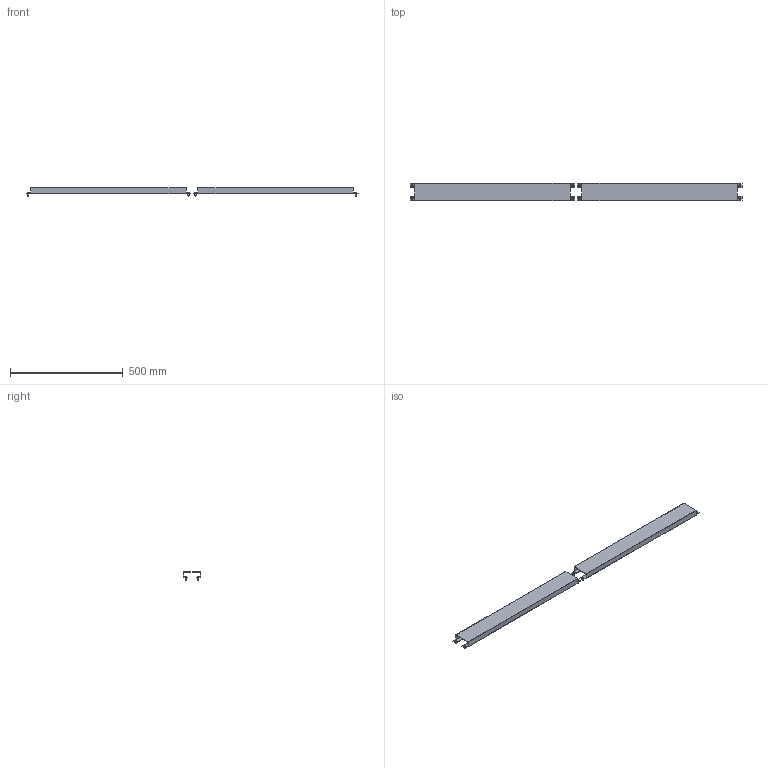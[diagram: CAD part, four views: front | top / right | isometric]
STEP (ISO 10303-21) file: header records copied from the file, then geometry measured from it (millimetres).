
FILE_DESCRIPTION(('Open CASCADE Model'),'2;1');
FILE_NAME('Open CASCADE Shape Model','2025-02-27T09:51:08',('Author'),( 'Open CASCADE'),'Open CASCADE STEP processor 7.8','Open CASCADE 7.8' ,'Unknown');
FILE_SCHEMA(('AUTOMOTIVE_DESIGN { 1 0 10303 214 1 1 1 1 }'));
Length unit declared in the file: millimetre
Products named in the file (3): Compound1; Solid1; Solid2
Assembly tree (10 placements, depth 2):
  Compound1
    Solid1  x2
    Solid2  x8
Bounding box: 1475 x 78 x 36 mm (x, y, z)
Volume: 455870.3 mm3; surface area: 463704.3 mm2
Topology: 10 solids, 10 shells, 276 faces, 640 edges, 376 vertices
Faces by surface type: plane 132, cylinder 48, cone 32, torus 32, bspline 16, sphere 16
Entity records: 2286 total; most frequent: CARTESIAN_POINT 564, DIRECTION 352, ORIENTED_EDGE 336, EDGE_CURVE 168, AXIS2_PLACEMENT_3D 119, LINE 114, VECTOR 114, VERTEX_POINT 107
